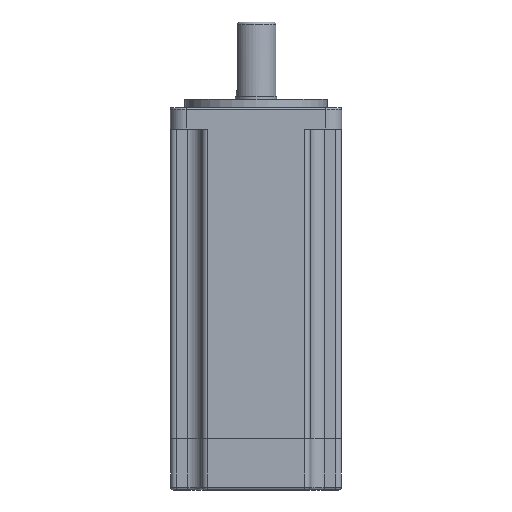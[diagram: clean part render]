
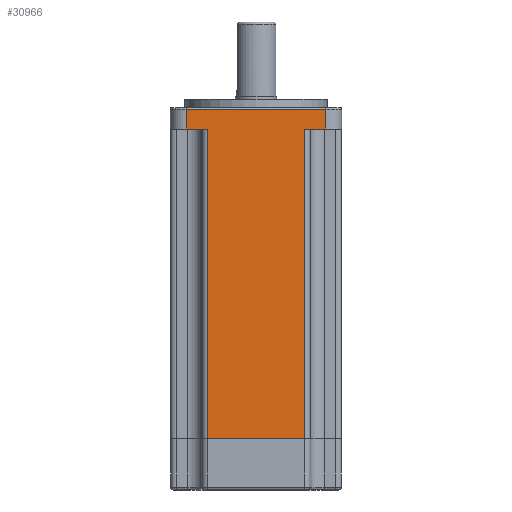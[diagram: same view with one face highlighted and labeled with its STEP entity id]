
A CAD part, front view. The second image highlights one B-rep face of the part: STEP entity #30966.
In plain terms, the highlighted planar face has unit normal (0, -1, 0).
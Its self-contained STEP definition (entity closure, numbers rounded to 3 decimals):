
#608 = LINE ( 'NONE', #19183, #13365 ) ;
#755 = CARTESIAN_POINT ( 'NONE',  ( -19., -30., -116. ) ) ;
#1353 = ORIENTED_EDGE ( 'NONE', *, *, #21338, .F. ) ;
#1521 = ORIENTED_EDGE ( 'NONE', *, *, #10633, .T. ) ;
#1881 = VECTOR ( 'NONE', #32381, 1000. ) ;
#2978 = AXIS2_PLACEMENT_3D ( 'NONE', #32430, #18350, #21307 ) ;
#4644 = VECTOR ( 'NONE', #13931, 1000. ) ;
#7389 = CARTESIAN_POINT ( 'NONE',  ( 17., -30., -7.5 ) ) ;
#8015 = LINE ( 'NONE', #15629, #8916 ) ;
#8416 = CARTESIAN_POINT ( 'NONE',  ( 24.5, -30., -7.5 ) ) ;
#8612 = VERTEX_POINT ( 'NONE', #30969 ) ;
#8751 = EDGE_CURVE ( 'NONE', #8612, #26567, #16505, .T. ) ;
#8850 = VERTEX_POINT ( 'NONE', #34921 ) ;
#8885 = CARTESIAN_POINT ( 'NONE',  ( -24.5, -30., -0.5 ) ) ;
#8886 = VERTEX_POINT ( 'NONE', #7389 ) ;
#8916 = VECTOR ( 'NONE', #29836, 1000. ) ;
#10272 = EDGE_CURVE ( 'NONE', #14835, #32741, #29709, .T. ) ;
#10633 = EDGE_CURVE ( 'NONE', #16488, #32741, #608, .T. ) ;
#11164 = CARTESIAN_POINT ( 'NONE',  ( -17., -30., -116. ) ) ;
#11616 = ORIENTED_EDGE ( 'NONE', *, *, #29428, .T. ) ;
#12271 = EDGE_CURVE ( 'NONE', #16488, #8850, #19490, .T. ) ;
#12793 = VECTOR ( 'NONE', #19540, 1000. ) ;
#13365 = VECTOR ( 'NONE', #36292, 1000. ) ;
#13931 = DIRECTION ( 'NONE',  ( -1., 0., 0. ) ) ;
#14210 = EDGE_LOOP ( 'NONE', ( #17383, #15256, #25386, #27378, #1521, #29843, #11616, #1353 ) ) ;
#14835 = VERTEX_POINT ( 'NONE', #32073 ) ;
#15256 = ORIENTED_EDGE ( 'NONE', *, *, #8751, .T. ) ;
#15629 = CARTESIAN_POINT ( 'NONE',  ( 17., -30., -7.5 ) ) ;
#15716 = CARTESIAN_POINT ( 'NONE',  ( -24.5, -30., -7.5 ) ) ;
#16488 = VERTEX_POINT ( 'NONE', #28339 ) ;
#16505 = LINE ( 'NONE', #22571, #4644 ) ;
#17383 = ORIENTED_EDGE ( 'NONE', *, *, #21671, .T. ) ;
#18350 = DIRECTION ( 'NONE',  ( 0., 1., 0. ) ) ;
#19183 = CARTESIAN_POINT ( 'NONE',  ( -17., -30., -7.5 ) ) ;
#19384 = VECTOR ( 'NONE', #31121, 1000. ) ;
#19417 = VECTOR ( 'NONE', #27079, 1000. ) ;
#19490 = LINE ( 'NONE', #21145, #1881 ) ;
#19540 = DIRECTION ( 'NONE',  ( 0., 0., 1. ) ) ;
#19785 = CARTESIAN_POINT ( 'NONE',  ( -24.5, -30., -7.5 ) ) ;
#21145 = CARTESIAN_POINT ( 'NONE',  ( -24.5, -30., -7.5 ) ) ;
#21307 = DIRECTION ( 'NONE',  ( 1., 0., 0. ) ) ;
#21338 = EDGE_CURVE ( 'NONE', #33862, #8886, #26066, .T. ) ;
#21612 = LINE ( 'NONE', #19785, #12793 ) ;
#21671 = EDGE_CURVE ( 'NONE', #33862, #8612, #24702, .T. ) ;
#22571 = CARTESIAN_POINT ( 'NONE',  ( -24.5, -30., -0.5 ) ) ;
#24702 = LINE ( 'NONE', #8416, #19384 ) ;
#25386 = ORIENTED_EDGE ( 'NONE', *, *, #31271, .F. ) ;
#26066 = LINE ( 'NONE', #15716, #19417 ) ;
#26567 = VERTEX_POINT ( 'NONE', #8885 ) ;
#26864 = PLANE ( 'NONE',  #2978 ) ;
#27079 = DIRECTION ( 'NONE',  ( -1., 0., 0. ) ) ;
#27378 = ORIENTED_EDGE ( 'NONE', *, *, #12271, .F. ) ;
#28339 = CARTESIAN_POINT ( 'NONE',  ( -17., -30., -7.5 ) ) ;
#28384 = VECTOR ( 'NONE', #31815, 1000. ) ;
#29428 = EDGE_CURVE ( 'NONE', #14835, #8886, #8015, .T. ) ;
#29709 = LINE ( 'NONE', #755, #28384 ) ;
#29836 = DIRECTION ( 'NONE',  ( 0., 0., 1. ) ) ;
#29843 = ORIENTED_EDGE ( 'NONE', *, *, #10272, .F. ) ;
#30966 = ADVANCED_FACE ( 'NONE', ( #34903 ), #26864, .F. ) ;
#30969 = CARTESIAN_POINT ( 'NONE',  ( 24.5, -30., -0.5 ) ) ;
#31121 = DIRECTION ( 'NONE',  ( 0., 0., 1. ) ) ;
#31271 = EDGE_CURVE ( 'NONE', #8850, #26567, #21612, .T. ) ;
#31815 = DIRECTION ( 'NONE',  ( -1., 0., 0. ) ) ;
#32073 = CARTESIAN_POINT ( 'NONE',  ( 17., -30., -116. ) ) ;
#32381 = DIRECTION ( 'NONE',  ( -1., 0., 0. ) ) ;
#32430 = CARTESIAN_POINT ( 'NONE',  ( -24.5, -30., -7.5 ) ) ;
#32741 = VERTEX_POINT ( 'NONE', #11164 ) ;
#33862 = VERTEX_POINT ( 'NONE', #35824 ) ;
#34903 = FACE_OUTER_BOUND ( 'NONE', #14210, .T. ) ;
#34921 = CARTESIAN_POINT ( 'NONE',  ( -24.5, -30., -7.5 ) ) ;
#35824 = CARTESIAN_POINT ( 'NONE',  ( 24.5, -30., -7.5 ) ) ;
#36292 = DIRECTION ( 'NONE',  ( 0., 0., -1. ) ) ;
